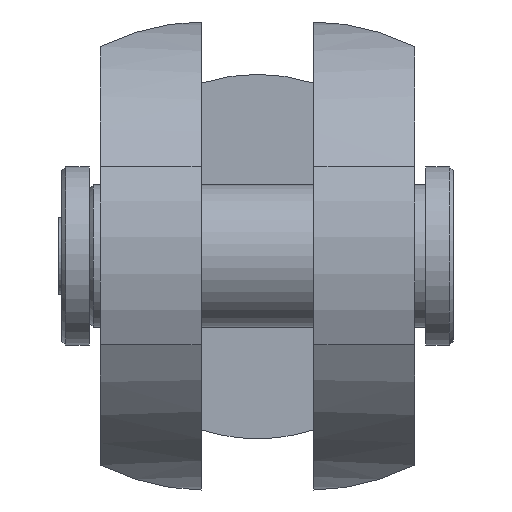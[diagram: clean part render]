
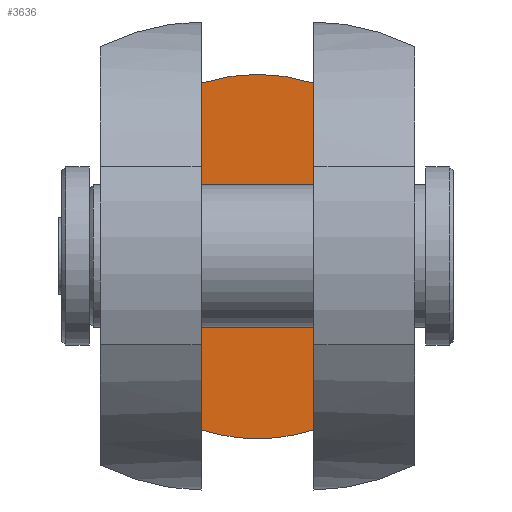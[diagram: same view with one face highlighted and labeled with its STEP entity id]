
A CAD part, top view. The second image highlights one B-rep face of the part: STEP entity #3636.
In plain terms, the highlighted planar face has unit normal (0, 0, 1).
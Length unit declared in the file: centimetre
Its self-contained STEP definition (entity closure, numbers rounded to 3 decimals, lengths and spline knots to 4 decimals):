
#172=PLANE('',#3841);
#585=LINE('',#5990,#941);
#586=LINE('',#5992,#942);
#941=VECTOR('',#4575,8.7578);
#942=VECTOR('',#4578,8.7578);
#1181=FACE_OUTER_BOUND('',#1405,.T.);
#1405=EDGE_LOOP('',(#3158,#3159,#3160,#3161));
#1472=CIRCLE('',#3696,4.6049);
#1473=CIRCLE('',#3697,4.6049);
#1536=VERTEX_POINT('',#4869);
#1537=VERTEX_POINT('',#4873);
#1542=VERTEX_POINT('',#4905);
#1543=VERTEX_POINT('',#4909);
#1867=EDGE_CURVE('',#1536,#1537,#1472,.T.);
#1873=EDGE_CURVE('',#1542,#1543,#1473,.T.);
#2268=EDGE_CURVE('',#1543,#1536,#585,.T.);
#2269=EDGE_CURVE('',#1542,#1537,#586,.T.);
#3158=ORIENTED_EDGE('',*,*,#1873,.F.);
#3159=ORIENTED_EDGE('',*,*,#2269,.T.);
#3160=ORIENTED_EDGE('',*,*,#1867,.F.);
#3161=ORIENTED_EDGE('',*,*,#2268,.F.);
#3636=ADVANCED_FACE('',(#1181),#172,.F.);
#3696=AXIS2_PLACEMENT_3D('',#4874,#3951,#3952);
#3697=AXIS2_PLACEMENT_3D('',#4910,#3953,#3954);
#3841=AXIS2_PLACEMENT_3D('',#5991,#4576,#4577);
#3951=DIRECTION('center_axis',(0.,0.,
-1.));
#3952=DIRECTION('ref_axis',(0.,-1.,0.));
#3953=DIRECTION('center_axis',(0.,0.,
-1.));
#3954=DIRECTION('ref_axis',(0.,-1.,0.));
#4575=DIRECTION('',(0.,1.,0.));
#4576=DIRECTION('center_axis',(0.,0.,
-1.));
#4577=DIRECTION('ref_axis',(-1.,0.,0.));
#4578=DIRECTION('',(0.,1.,0.));
#4869=CARTESIAN_POINT('',(-1.425,4.3789,-7.6));
#4873=CARTESIAN_POINT('',(1.425,4.3789,-7.6));
#4874=CARTESIAN_POINT('Origin',(0.,0.,
-7.6));
#4905=CARTESIAN_POINT('',(1.425,-4.3789,-7.6));
#4909=CARTESIAN_POINT('',(-1.425,-4.3789,-7.6));
#4910=CARTESIAN_POINT('Origin',(0.,0.,
-7.6));
#5990=CARTESIAN_POINT('',(-1.425,0.,-7.6));
#5991=CARTESIAN_POINT('Origin',(1.425,0.,-7.6));
#5992=CARTESIAN_POINT('',(1.425,0.,-7.6));
